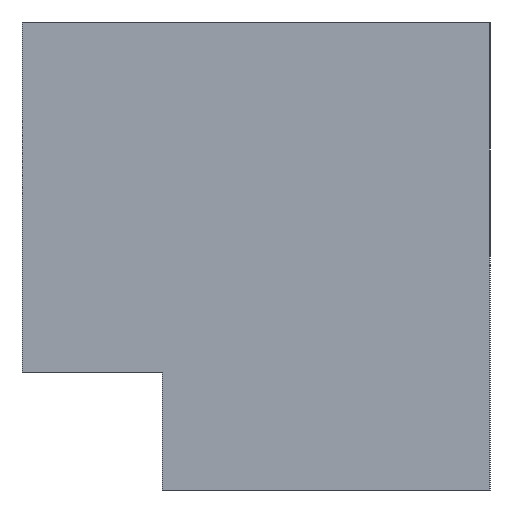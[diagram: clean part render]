
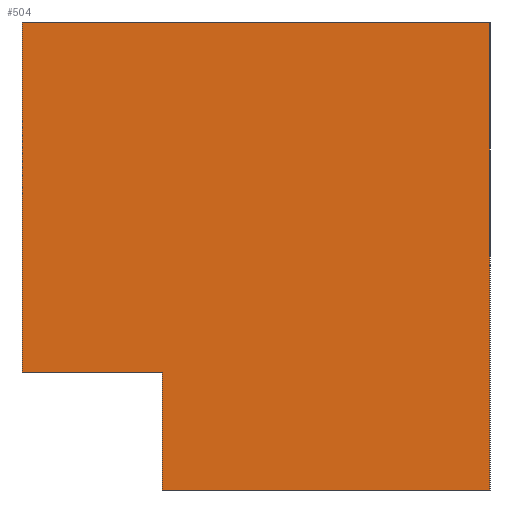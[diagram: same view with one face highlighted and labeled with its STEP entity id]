
A CAD part, left-side view. The second image highlights one B-rep face of the part: STEP entity #504.
In plain terms, the highlighted planar face has unit normal (1, 0, 0).
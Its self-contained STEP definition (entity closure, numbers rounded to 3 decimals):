
#449=CARTESIAN_POINT('Axis2P3D Location',(-31.5,0.,0.)) ;
#454=CARTESIAN_POINT('Line Origine',(-31.5,4.,-17.5)) ;
#458=CARTESIAN_POINT('Vertex',(-31.5,4.,-20.)) ;
#460=CARTESIAN_POINT('Vertex',(-31.5,4.,-15.)) ;
#463=CARTESIAN_POINT('Line Origine',(-31.5,7.,-15.)) ;
#467=CARTESIAN_POINT('Vertex',(-31.5,10.,-15.)) ;
#470=CARTESIAN_POINT('Line Origine',(-31.5,10.,-7.5)) ;
#474=CARTESIAN_POINT('Vertex',(-31.5,10.,0.)) ;
#477=CARTESIAN_POINT('Line Origine',(-31.5,0.,0.)) ;
#481=CARTESIAN_POINT('Vertex',(-31.5,-10.,0.)) ;
#484=CARTESIAN_POINT('Line Origine',(-31.5,-10.,-10.)) ;
#488=CARTESIAN_POINT('Vertex',(-31.5,-10.,-20.)) ;
#491=CARTESIAN_POINT('Line Origine',(-31.5,-3.,-20.)) ;
#450=DIRECTION('Axis2P3D Direction',(1.,0.,0.)) ;
#451=DIRECTION('Axis2P3D XDirection',(0.,1.,0.)) ;
#455=DIRECTION('Vector Direction',(0.,0.,1.)) ;
#464=DIRECTION('Vector Direction',(0.,1.,0.)) ;
#471=DIRECTION('Vector Direction',(0.,0.,1.)) ;
#478=DIRECTION('Vector Direction',(0.,-1.,0.)) ;
#485=DIRECTION('Vector Direction',(0.,0.,-1.)) ;
#492=DIRECTION('Vector Direction',(0.,1.,0.)) ;
#452=AXIS2_PLACEMENT_3D('Plane Axis2P3D',#449,#450,#451) ;
#497=ORIENTED_EDGE('',*,*,#462,.T.) ;
#498=ORIENTED_EDGE('',*,*,#469,.T.) ;
#499=ORIENTED_EDGE('',*,*,#476,.T.) ;
#500=ORIENTED_EDGE('',*,*,#483,.T.) ;
#501=ORIENTED_EDGE('',*,*,#490,.T.) ;
#502=ORIENTED_EDGE('',*,*,#495,.T.) ;
#456=VECTOR('Line Direction',#455,1.) ;
#465=VECTOR('Line Direction',#464,1.) ;
#472=VECTOR('Line Direction',#471,1.) ;
#479=VECTOR('Line Direction',#478,1.) ;
#486=VECTOR('Line Direction',#485,1.) ;
#493=VECTOR('Line Direction',#492,1.) ;
#504=ADVANCED_FACE('MANIFOLD_SOLID_BREP #1816',(#503),#453,.T.) ;
#462=EDGE_CURVE('',#459,#461,#457,.T.) ;
#469=EDGE_CURVE('',#461,#468,#466,.T.) ;
#476=EDGE_CURVE('',#468,#475,#473,.T.) ;
#483=EDGE_CURVE('',#475,#482,#480,.T.) ;
#490=EDGE_CURVE('',#482,#489,#487,.T.) ;
#495=EDGE_CURVE('',#489,#459,#494,.T.) ;
#496=EDGE_LOOP('',(#497,#498,#499,#500,#501,#502)) ;
#503=FACE_OUTER_BOUND('',#496,.T.) ;
#457=LINE('Line',#454,#456) ;
#466=LINE('Line',#463,#465) ;
#473=LINE('Line',#470,#472) ;
#480=LINE('Line',#477,#479) ;
#487=LINE('Line',#484,#486) ;
#494=LINE('Line',#491,#493) ;
#453=PLANE('Plane',#452) ;
#459=VERTEX_POINT('',#458) ;
#461=VERTEX_POINT('',#460) ;
#468=VERTEX_POINT('',#467) ;
#475=VERTEX_POINT('',#474) ;
#482=VERTEX_POINT('',#481) ;
#489=VERTEX_POINT('',#488) ;
